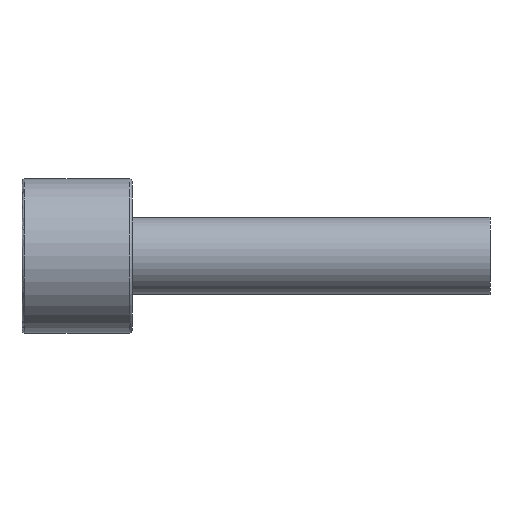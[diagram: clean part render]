
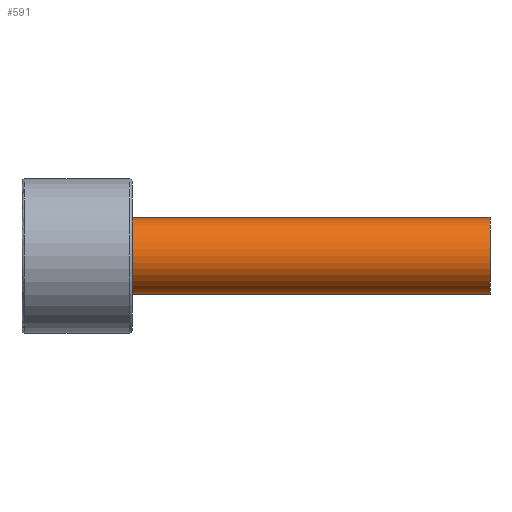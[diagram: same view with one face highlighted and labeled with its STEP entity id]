
A CAD part, front view. The second image highlights one B-rep face of the part: STEP entity #591.
In plain terms, the highlighted cylindrical face has radius 7 mm (diameter 14 mm), a partial arc.
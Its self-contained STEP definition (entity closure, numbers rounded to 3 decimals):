
#425=CARTESIAN_POINT('Vertex',(85.,0.,7.)) ;
#428=CARTESIAN_POINT('Axis2P3D Location',(85.,0.,0.)) ;
#432=CARTESIAN_POINT('Vertex',(85.,-7.,0.)) ;
#435=CARTESIAN_POINT('Axis2P3D Location',(85.,0.,0.)) ;
#439=CARTESIAN_POINT('Vertex',(85.,0.,-7.)) ;
#531=CARTESIAN_POINT('Line Origine',(85.,0.,7.)) ;
#535=CARTESIAN_POINT('Vertex',(20.,0.,7.)) ;
#538=CARTESIAN_POINT('Line Origine',(85.,0.,-7.)) ;
#542=CARTESIAN_POINT('Vertex',(20.,0.,-7.)) ;
#566=CARTESIAN_POINT('Axis2P3D Location',(85.,0.,0.)) ;
#571=CARTESIAN_POINT('Axis2P3D Location',(20.,0.,0.)) ;
#575=CARTESIAN_POINT('Vertex',(20.,-7.,0.)) ;
#578=CARTESIAN_POINT('Axis2P3D Location',(20.,0.,0.)) ;
#429=DIRECTION('Axis2P3D Direction',(1.,0.,-0.)) ;
#436=DIRECTION('Axis2P3D Direction',(1.,0.,-0.)) ;
#532=DIRECTION('Vector Direction',(-1.,0.,0.)) ;
#539=DIRECTION('Vector Direction',(-1.,0.,0.)) ;
#567=DIRECTION('Axis2P3D Direction',(-1.,-0.,-0.)) ;
#568=DIRECTION('Axis2P3D XDirection',(0.,0.,-1.)) ;
#572=DIRECTION('Axis2P3D Direction',(-1.,-0.,-0.)) ;
#579=DIRECTION('Axis2P3D Direction',(-1.,-0.,-0.)) ;
#430=AXIS2_PLACEMENT_3D('Circle Axis2P3D',#428,#429,$) ;
#437=AXIS2_PLACEMENT_3D('Circle Axis2P3D',#435,#436,$) ;
#569=AXIS2_PLACEMENT_3D('Cylinder Axis2P3D',#566,#567,#568) ;
#573=AXIS2_PLACEMENT_3D('Circle Axis2P3D',#571,#572,$) ;
#580=AXIS2_PLACEMENT_3D('Circle Axis2P3D',#578,#579,$) ;
#584=ORIENTED_EDGE('',*,*,#544,.T.) ;
#585=ORIENTED_EDGE('',*,*,#441,.F.) ;
#586=ORIENTED_EDGE('',*,*,#434,.F.) ;
#587=ORIENTED_EDGE('',*,*,#537,.T.) ;
#588=ORIENTED_EDGE('',*,*,#577,.T.) ;
#589=ORIENTED_EDGE('',*,*,#582,.T.) ;
#533=VECTOR('Line Direction',#532,1.) ;
#540=VECTOR('Line Direction',#539,1.) ;
#591=ADVANCED_FACE('367-14X85',(#590),#570,.T.) ;
#431=CIRCLE('generated circle',#430,7.) ;
#438=CIRCLE('generated circle',#437,7.) ;
#574=CIRCLE('generated circle',#573,7.) ;
#581=CIRCLE('generated circle',#580,7.) ;
#570=CYLINDRICAL_SURFACE('generated cylinder',#569,7.) ;
#434=EDGE_CURVE('',#426,#433,#431,.T.) ;
#441=EDGE_CURVE('',#433,#440,#438,.T.) ;
#537=EDGE_CURVE('',#426,#536,#534,.T.) ;
#544=EDGE_CURVE('',#543,#440,#541,.F.) ;
#577=EDGE_CURVE('',#536,#576,#574,.F.) ;
#582=EDGE_CURVE('',#576,#543,#581,.F.) ;
#583=EDGE_LOOP('',(#584,#585,#586,#587,#588,#589)) ;
#590=FACE_OUTER_BOUND('',#583,.T.) ;
#534=LINE('Line',#531,#533) ;
#541=LINE('Line',#538,#540) ;
#426=VERTEX_POINT('',#425) ;
#433=VERTEX_POINT('',#432) ;
#440=VERTEX_POINT('',#439) ;
#536=VERTEX_POINT('',#535) ;
#543=VERTEX_POINT('',#542) ;
#576=VERTEX_POINT('',#575) ;
